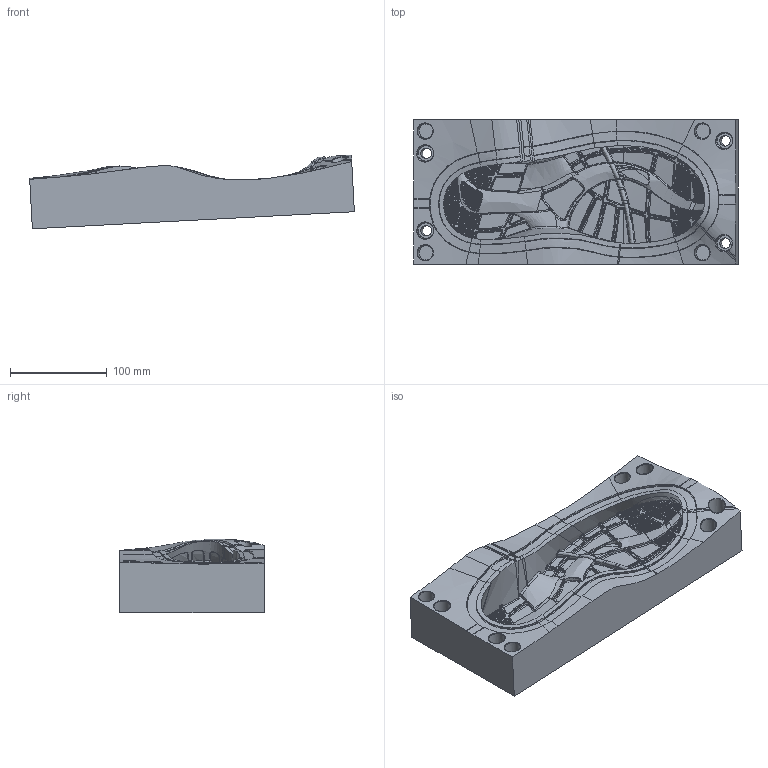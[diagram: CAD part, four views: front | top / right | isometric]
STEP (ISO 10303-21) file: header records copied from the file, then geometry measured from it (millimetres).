
FILE_DESCRIPTION(/* description */ ('Unknown'),/* implementation_level */ '2;1');
FILE_NAME(/* name */ 'Tvarnice',/* time_stamp */ '2025-05-07T19:11:58+02:00',/* author */ ('Unknown'),/* organization */ ('Unknown'),/* preprocessor_version */ 'ST-DEVELOPER v19.4',/* originating_system */ 'Solid Edge',/* authorisation */ 'Unknown');
FILE_SCHEMA (('CONFIG_CONTROL_DESIGN'));
Products named in the file (1): Lisovací_forma_pro_podešev
Bounding box: 336.28 x 150 x 76.18 mm (x, y, z)
Volume: 1628547.8 mm3; surface area: 195675.9 mm2
Topology: 1 solids, 2 shells, 2524 faces, 6742 edges, 4126 vertices
Faces by surface type: bspline 1640, plane 633, cylinder 121, sphere 91, torus 27, cone 12
Full cylindrical faces by diameter (mm): 11 x4, 16 x4, 17 x4
Entity records: 120519 total; most frequent: CARTESIAN_POINT 73651, ORIENTED_EDGE 13180, EDGE_CURVE 6590, B_SPLINE_CURVE_WITH_KNOTS 4737, DIRECTION 4673, VERTEX_POINT 4104, EDGE_LOOP 2566, FACE_BOUND 2566
